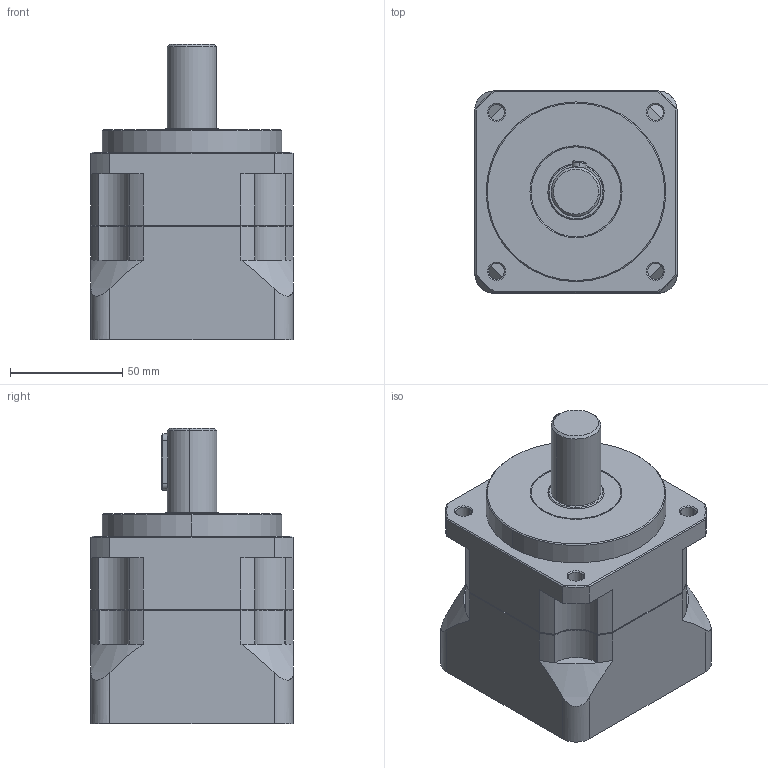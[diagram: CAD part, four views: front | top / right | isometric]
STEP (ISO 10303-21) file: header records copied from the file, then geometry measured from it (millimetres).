
FILE_DESCRIPTION (( 'STEP AP203' ), '1' );
FILE_NAME ('JHP90-L1.STEP', '2018-05-28T03:48:18', ( 'user' ), ( '' ), 'SwSTEP 2.0', 'SolidWorks 2014', '' );
FILE_SCHEMA (( 'CONFIG_CONTROL_DESIGN' ));
Length unit declared in the file: millimetre
Products named in the file (1): JHP90-L1
Bounding box: 90 x 90 x 131.4 mm (x, y, z)
Volume: 454102 mm3; surface area: 88721.6 mm2
Topology: 4 solids, 4 shells, 213 faces, 480 edges, 296 vertices
Faces by surface type: cylinder 97, cone 59, plane 57
Entity records: 6355 total; most frequent: CARTESIAN_POINT 1365, DIRECTION 1112, ORIENTED_EDGE 960, EDGE_CURVE 480, AXIS2_PLACEMENT_3D 459, VERTEX_POINT 296, EDGE_LOOP 248, CIRCLE 245
